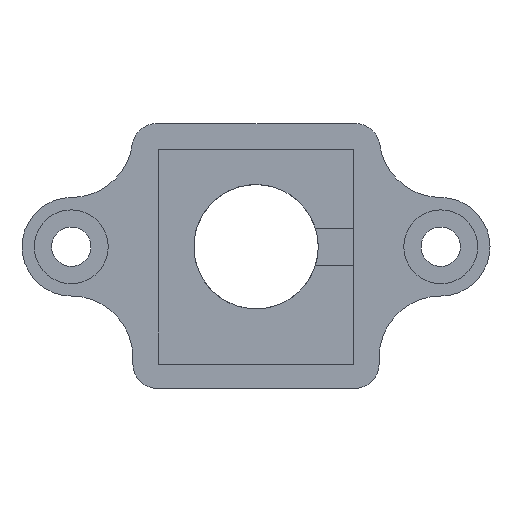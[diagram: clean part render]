
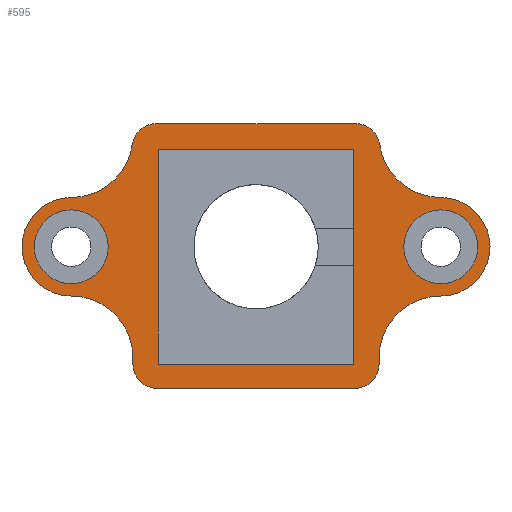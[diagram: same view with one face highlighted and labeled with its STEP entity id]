
A CAD part, front view. The second image highlights one B-rep face of the part: STEP entity #595.
In plain terms, the highlighted planar face has unit normal (0, -1, 0).
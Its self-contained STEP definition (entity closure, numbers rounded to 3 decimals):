
#18=FACE_BOUND('',#101,.T.);
#19=FACE_BOUND('',#102,.T.);
#20=FACE_BOUND('',#103,.T.);
#37=PLANE('',#670);
#65=FACE_OUTER_BOUND('',#100,.T.);
#100=EDGE_LOOP('',(#514,#515,#516,#517,#518,#519,#520,#521,#522,#523,#524,
#525,#526,#527,#528));
#101=EDGE_LOOP('',(#529,#530,#531,#532));
#102=EDGE_LOOP('',(#533));
#103=EDGE_LOOP('',(#534));
#123=LINE('',#898,#174);
#134=LINE('',#955,#185);
#138=LINE('',#964,#189);
#142=LINE('',#971,#193);
#144=LINE('',#976,#195);
#147=LINE('',#980,#198);
#149=LINE('',#986,#200);
#154=LINE('',#997,#205);
#160=LINE('',#1021,#211);
#174=VECTOR('',#712,10.);
#185=VECTOR('',#769,10.);
#189=VECTOR('',#775,10.);
#193=VECTOR('',#781,10.);
#195=VECTOR('',#785,10.);
#198=VECTOR('',#790,10.);
#200=VECTOR('',#796,10.);
#205=VECTOR('',#807,10.);
#211=VECTOR('',#839,10.);
#219=CIRCLE('',#627,3.);
#221=CIRCLE('',#630,3.);
#224=CIRCLE('',#634,4.);
#236=CIRCLE('',#655,5.);
#237=CIRCLE('',#658,5.);
#238=CIRCLE('',#660,5.);
#239=CIRCLE('',#662,2.);
#240=CIRCLE('',#664,5.);
#241=CIRCLE('',#666,2.);
#242=CIRCLE('',#668,2.);
#243=CIRCLE('',#671,2.);
#244=CIRCLE('',#672,4.);
#257=VERTEX_POINT('',#894);
#259=VERTEX_POINT('',#897);
#261=VERTEX_POINT('',#903);
#263=VERTEX_POINT('',#909);
#266=VERTEX_POINT('',#917);
#281=VERTEX_POINT('',#951);
#282=VERTEX_POINT('',#953);
#285=VERTEX_POINT('',#961);
#286=VERTEX_POINT('',#963);
#288=VERTEX_POINT('',#969);
#290=VERTEX_POINT('',#975);
#291=VERTEX_POINT('',#983);
#292=VERTEX_POINT('',#985);
#293=VERTEX_POINT('',#989);
#294=VERTEX_POINT('',#993);
#295=VERTEX_POINT('',#995);
#296=VERTEX_POINT('',#1001);
#297=VERTEX_POINT('',#1003);
#298=VERTEX_POINT('',#1009);
#299=VERTEX_POINT('',#1015);
#300=VERTEX_POINT('',#1019);
#318=EDGE_CURVE('',#259,#257,#123,.T.);
#321=EDGE_CURVE('',#261,#261,#219,.T.);
#324=EDGE_CURVE('',#263,#263,#221,.T.);
#328=EDGE_CURVE('',#266,#259,#224,.T.);
#347=EDGE_CURVE('',#281,#282,#134,.T.);
#351=EDGE_CURVE('',#286,#285,#138,.F.);
#355=EDGE_CURVE('',#285,#288,#142,.F.);
#357=EDGE_CURVE('',#290,#286,#144,.F.);
#360=EDGE_CURVE('',#288,#290,#147,.F.);
#362=EDGE_CURVE('',#292,#291,#149,.T.);
#364=EDGE_CURVE('',#292,#293,#236,.T.);
#368=EDGE_CURVE('',#294,#295,#154,.T.);
#369=EDGE_CURVE('',#266,#295,#237,.T.);
#372=EDGE_CURVE('',#297,#296,#238,.T.);
#373=EDGE_CURVE('',#296,#282,#239,.T.);
#375=EDGE_CURVE('',#298,#257,#240,.T.);
#376=EDGE_CURVE('',#281,#298,#241,.T.);
#377=EDGE_CURVE('',#294,#299,#242,.T.);
#380=EDGE_CURVE('',#300,#299,#160,.T.);
#381=EDGE_CURVE('',#300,#291,#243,.T.);
#382=EDGE_CURVE('',#297,#293,#244,.T.);
#514=ORIENTED_EDGE('',*,*,#381,.F.);
#515=ORIENTED_EDGE('',*,*,#380,.T.);
#516=ORIENTED_EDGE('',*,*,#377,.F.);
#517=ORIENTED_EDGE('',*,*,#368,.T.);
#518=ORIENTED_EDGE('',*,*,#369,.F.);
#519=ORIENTED_EDGE('',*,*,#328,.T.);
#520=ORIENTED_EDGE('',*,*,#318,.T.);
#521=ORIENTED_EDGE('',*,*,#375,.F.);
#522=ORIENTED_EDGE('',*,*,#376,.F.);
#523=ORIENTED_EDGE('',*,*,#347,.T.);
#524=ORIENTED_EDGE('',*,*,#373,.F.);
#525=ORIENTED_EDGE('',*,*,#372,.F.);
#526=ORIENTED_EDGE('',*,*,#382,.T.);
#527=ORIENTED_EDGE('',*,*,#364,.F.);
#528=ORIENTED_EDGE('',*,*,#362,.T.);
#529=ORIENTED_EDGE('',*,*,#357,.T.);
#530=ORIENTED_EDGE('',*,*,#351,.T.);
#531=ORIENTED_EDGE('',*,*,#355,.T.);
#532=ORIENTED_EDGE('',*,*,#360,.T.);
#533=ORIENTED_EDGE('',*,*,#321,.T.);
#534=ORIENTED_EDGE('',*,*,#324,.T.);
#595=ADVANCED_FACE('',(#65,#18,#19,#20),#37,.F.);
#627=AXIS2_PLACEMENT_3D('',#904,#718,#719);
#630=AXIS2_PLACEMENT_3D('',#910,#725,#726);
#634=AXIS2_PLACEMENT_3D('',#918,#734,#735);
#655=AXIS2_PLACEMENT_3D('',#990,#800,#801);
#658=AXIS2_PLACEMENT_3D('',#999,#810,#811);
#660=AXIS2_PLACEMENT_3D('',#1005,#816,#817);
#662=AXIS2_PLACEMENT_3D('',#1007,#820,#821);
#664=AXIS2_PLACEMENT_3D('',#1011,#825,#826);
#666=AXIS2_PLACEMENT_3D('',#1013,#829,#830);
#668=AXIS2_PLACEMENT_3D('',#1016,#833,#834);
#670=AXIS2_PLACEMENT_3D('',#1022,#840,#841);
#671=AXIS2_PLACEMENT_3D('',#1023,#842,#843);
#672=AXIS2_PLACEMENT_3D('',#1024,#844,#845);
#712=DIRECTION('',(-1.,0.,0.));
#718=DIRECTION('center_axis',(0.,1.,0.));
#719=DIRECTION('ref_axis',(0.,0.,
-1.));
#725=DIRECTION('center_axis',(0.,1.,0.));
#726=DIRECTION('ref_axis',(0.,0.,
-1.));
#734=DIRECTION('center_axis',(0.,-1.,0.));
#735=DIRECTION('ref_axis',(0.,0.,-1.));
#769=DIRECTION('',(-1.,0.,0.));
#775=DIRECTION('',(0.,0.,1.));
#781=DIRECTION('',(1.,0.,0.));
#785=DIRECTION('',(-1.,0.,0.));
#790=DIRECTION('',(0.,0.,-1.));
#796=DIRECTION('',(0.,0.,-1.));
#800=DIRECTION('center_axis',(0.,-1.,0.));
#801=DIRECTION('ref_axis',(0.707,0.,0.707));
#807=DIRECTION('',(0.,0.,1.));
#810=DIRECTION('center_axis',(0.,-1.,0.));
#811=DIRECTION('ref_axis',(-0.707,0.,0.707));
#816=DIRECTION('center_axis',(0.,-1.,0.));
#817=DIRECTION('ref_axis',(0.707,0.,-0.707));
#820=DIRECTION('center_axis',(0.,1.,0.));
#821=DIRECTION('ref_axis',(0.,0.,
-1.));
#825=DIRECTION('center_axis',(0.,-1.,0.));
#826=DIRECTION('ref_axis',(-0.707,0.,-0.707));
#829=DIRECTION('center_axis',(0.,1.,0.));
#830=DIRECTION('ref_axis',(0.,0.,
-1.));
#833=DIRECTION('center_axis',(0.,1.,0.));
#834=DIRECTION('ref_axis',(0.707,0.,-0.707));
#839=DIRECTION('',(1.,0.,0.));
#840=DIRECTION('center_axis',(0.,1.,0.));
#841=DIRECTION('ref_axis',(-1.,0.,0.));
#842=DIRECTION('center_axis',(0.,1.,0.));
#843=DIRECTION('ref_axis',(-0.707,0.,-0.707));
#844=DIRECTION('center_axis',(0.,-1.,0.));
#845=DIRECTION('ref_axis',(1.,0.,0.));
#894=CARTESIAN_POINT('',(15.,-11.5,4.));
#897=CARTESIAN_POINT('',(15.,-11.5,4.));
#898=CARTESIAN_POINT('',(5.657,-11.5,4.));
#903=CARTESIAN_POINT('',(-15.,-11.5,3.));
#904=CARTESIAN_POINT('Origin',(-15.,-11.5,0.));
#909=CARTESIAN_POINT('',(15.,-11.5,3.));
#910=CARTESIAN_POINT('Origin',(15.,-11.5,0.));
#917=CARTESIAN_POINT('',(15.,-11.5,-4.));
#918=CARTESIAN_POINT('Origin',(15.,-11.5,0.));
#951=CARTESIAN_POINT('',(8.072,-11.5,10.));
#953=CARTESIAN_POINT('',(-8.072,-11.5,10.));
#955=CARTESIAN_POINT('',(-10.,-11.5,10.));
#961=CARTESIAN_POINT('',(7.94,-11.5,-9.53));
#963=CARTESIAN_POINT('',(7.94,-11.5,7.92));
#964=CARTESIAN_POINT('',(7.94,-11.5,3.96));
#969=CARTESIAN_POINT('',(-7.94,-11.5,-9.53));
#971=CARTESIAN_POINT('',(3.97,-11.5,-9.53));
#975=CARTESIAN_POINT('',(-7.94,-11.5,7.92));
#976=CARTESIAN_POINT('',(-3.97,-11.5,7.92));
#980=CARTESIAN_POINT('',(-7.94,-11.5,-4.765));
#983=CARTESIAN_POINT('',(-10.,-11.5,-9.5));
#985=CARTESIAN_POINT('',(-10.,-11.5,-9.));
#986=CARTESIAN_POINT('',(-10.,-11.5,-10.));
#989=CARTESIAN_POINT('',(-15.,-11.5,-4.));
#990=CARTESIAN_POINT('Origin',(-15.,-11.5,-9.));
#993=CARTESIAN_POINT('',(10.,-11.5,-9.5));
#995=CARTESIAN_POINT('',(10.,-11.5,-9.));
#997=CARTESIAN_POINT('',(10.,-11.5,-10.));
#999=CARTESIAN_POINT('Origin',(15.,-11.5,-9.));
#1001=CARTESIAN_POINT('',(-10.051,-11.5,8.286));
#1003=CARTESIAN_POINT('',(-15.,-11.5,4.));
#1005=CARTESIAN_POINT('Origin',(-15.,-11.5,9.));
#1007=CARTESIAN_POINT('Origin',(-8.072,-11.5,8.));
#1009=CARTESIAN_POINT('',(10.051,-11.5,8.286));
#1011=CARTESIAN_POINT('Origin',(15.,-11.5,9.));
#1013=CARTESIAN_POINT('Origin',(8.072,-11.5,8.));
#1015=CARTESIAN_POINT('',(8.,-11.5,-11.5));
#1016=CARTESIAN_POINT('Origin',(8.,-11.5,-9.5));
#1019=CARTESIAN_POINT('',(-8.,-11.5,-11.5));
#1021=CARTESIAN_POINT('',(10.,-11.5,-11.5));
#1022=CARTESIAN_POINT('Origin',(0.,-11.5,0.));
#1023=CARTESIAN_POINT('Origin',(-8.,-11.5,-9.5));
#1024=CARTESIAN_POINT('Origin',(-15.,-11.5,0.));
